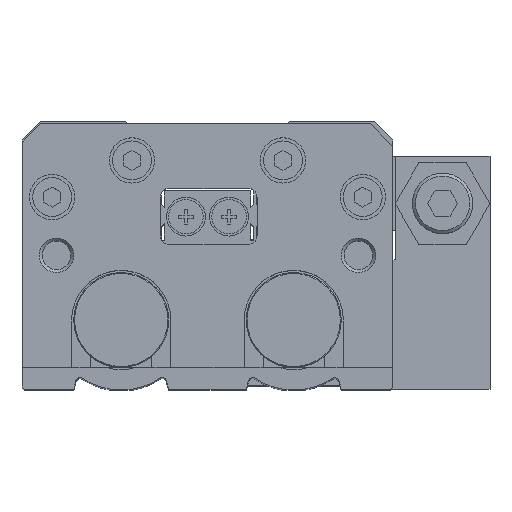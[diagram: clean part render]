
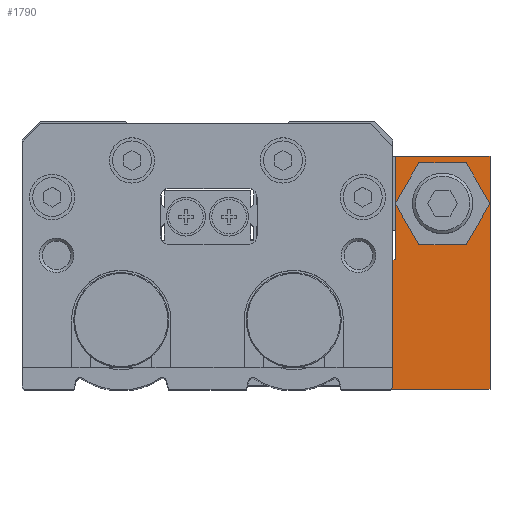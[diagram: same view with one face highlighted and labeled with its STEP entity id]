
A CAD part, top view. The second image highlights one B-rep face of the part: STEP entity #1790.
In plain terms, the highlighted planar face has unit normal (0, 0, 1) as drawn and (0, 0, -1) by its records, which use the part's own axes.
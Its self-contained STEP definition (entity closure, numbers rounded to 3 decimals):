
#1790 = ADVANCED_FACE( '', ( #3848, #3849 ), #3850, .F. );
#3848 = FACE_BOUND( '', #6049, .T. );
#3849 = FACE_OUTER_BOUND( '', #6050, .T. );
#3850 = PLANE( '', #6051 );
#6049 = EDGE_LOOP( '', ( #10764, #10765, #10766, #10767, #10768, #10769 ) );
#6050 = EDGE_LOOP( '', ( #10770, #10771, #10772, #10773, #10774, #10775 ) );
#6051 = AXIS2_PLACEMENT_3D( '', #10776, #10777, #10778 );
#10764 = ORIENTED_EDGE( '', *, *, #12379, .T. );
#10765 = ORIENTED_EDGE( '', *, *, #13208, .T. );
#10766 = ORIENTED_EDGE( '', *, *, #13246, .T. );
#10767 = ORIENTED_EDGE( '', *, *, #13527, .T. );
#10768 = ORIENTED_EDGE( '', *, *, #12333, .T. );
#10769 = ORIENTED_EDGE( '', *, *, #13174, .T. );
#10770 = ORIENTED_EDGE( '', *, *, #12586, .F. );
#10771 = ORIENTED_EDGE( '', *, *, #11812, .F. );
#10772 = ORIENTED_EDGE( '', *, *, #13233, .F. );
#10773 = ORIENTED_EDGE( '', *, *, #12953, .F. );
#10774 = ORIENTED_EDGE( '', *, *, #13394, .F. );
#10775 = ORIENTED_EDGE( '', *, *, #13273, .F. );
#10776 = CARTESIAN_POINT( '', ( 0., 0., -8. ) );
#10777 = DIRECTION( '', ( 0., 0., 1. ) );
#10778 = DIRECTION( '', ( 1., 0., 0. ) );
#11812 = EDGE_CURVE( '', #13851, #13852, #13853, .T. );
#12333 = EDGE_CURVE( '', #14751, #14752, #14753, .T. );
#12379 = EDGE_CURVE( '', #14823, #14824, #14825, .T. );
#12586 = EDGE_CURVE( '', #13852, #15160, #15161, .T. );
#12953 = EDGE_CURVE( '', #15745, #15746, #15747, .T. );
#13174 = EDGE_CURVE( '', #14752, #14823, #16067, .T. );
#13208 = EDGE_CURVE( '', #14824, #16110, #16111, .T. );
#13233 = EDGE_CURVE( '', #15746, #13851, #16146, .T. );
#13246 = EDGE_CURVE( '', #16110, #16163, #16164, .T. );
#13273 = EDGE_CURVE( '', #15160, #16199, #16200, .T. );
#13394 = EDGE_CURVE( '', #16199, #15745, #16354, .T. );
#13527 = EDGE_CURVE( '', #16163, #14751, #16518, .T. );
#13851 = VERTEX_POINT( '', #16882 );
#13852 = VERTEX_POINT( '', #16883 );
#13853 = LINE( '', #16884, #16885 );
#14751 = VERTEX_POINT( '', #18114 );
#14752 = VERTEX_POINT( '', #18115 );
#14753 = LINE( '', #18116, #18117 );
#14823 = VERTEX_POINT( '', #18208 );
#14824 = VERTEX_POINT( '', #18209 );
#14825 = LINE( '', #18210, #18211 );
#15160 = VERTEX_POINT( '', #18668 );
#15161 = LINE( '', #18669, #18670 );
#15745 = VERTEX_POINT( '', #19448 );
#15746 = VERTEX_POINT( '', #19449 );
#15747 = LINE( '', #19450, #19451 );
#16067 = LINE( '', #19898, #19899 );
#16110 = VERTEX_POINT( '', #19957 );
#16111 = LINE( '', #19958, #19959 );
#16146 = LINE( '', #20004, #20005 );
#16163 = VERTEX_POINT( '', #20028 );
#16164 = LINE( '', #20029, #20030 );
#16199 = VERTEX_POINT( '', #20083 );
#16200 = LINE( '', #20084, #20085 );
#16354 = LINE( '', #20298, #20299 );
#16518 = LINE( '', #20524, #20525 );
#16882 = CARTESIAN_POINT( '', ( 0., 54., -8. ) );
#16883 = CARTESIAN_POINT( '', ( -24., 54., -8. ) );
#16884 = CARTESIAN_POINT( '', ( 0., 54., -8. ) );
#16885 = VECTOR( '', #20922, 1000. );
#18114 = CARTESIAN_POINT( '', ( -5.515, 1.5, -8. ) );
#18115 = CARTESIAN_POINT( '', ( -0.03, 11., -8. ) );
#18116 = CARTESIAN_POINT( '', ( -5.515, 1.5, -8. ) );
#18117 = VECTOR( '', #21500, 1000. );
#18208 = CARTESIAN_POINT( '', ( -5.515, 20.5, -8. ) );
#18209 = CARTESIAN_POINT( '', ( -16.485, 20.5, -8. ) );
#18210 = CARTESIAN_POINT( '', ( -5.515, 20.5, -8. ) );
#18211 = VECTOR( '', #21555, 1000. );
#18668 = CARTESIAN_POINT( '', ( -24., 24., -8. ) );
#18669 = CARTESIAN_POINT( '', ( -24., 54., -8. ) );
#18670 = VECTOR( '', #21780, 1000. );
#19448 = CARTESIAN_POINT( '', ( -22., 0., -8. ) );
#19449 = CARTESIAN_POINT( '', ( 0., 0., -8. ) );
#19450 = CARTESIAN_POINT( '', ( -22., 0., -8. ) );
#19451 = VECTOR( '', #22245, 1000. );
#19898 = CARTESIAN_POINT( '', ( -0.03, 11., -8. ) );
#19899 = VECTOR( '', #22460, 1000. );
#19957 = CARTESIAN_POINT( '', ( -21.97, 11., -8. ) );
#19958 = CARTESIAN_POINT( '', ( -16.485, 20.5, -8. ) );
#19959 = VECTOR( '', #22494, 1000. );
#20004 = CARTESIAN_POINT( '', ( 0., 0., -8. ) );
#20005 = VECTOR( '', #22523, 1000. );
#20028 = CARTESIAN_POINT( '', ( -16.485, 1.5, -8. ) );
#20029 = CARTESIAN_POINT( '', ( -21.97, 11., -8. ) );
#20030 = VECTOR( '', #22536, 1000. );
#20083 = CARTESIAN_POINT( '', ( -22., 24., -8. ) );
#20084 = CARTESIAN_POINT( '', ( -24., 24., -8. ) );
#20085 = VECTOR( '', #22561, 1000. );
#20298 = CARTESIAN_POINT( '', ( -22., 24., -8. ) );
#20299 = VECTOR( '', #22663, 1000. );
#20524 = CARTESIAN_POINT( '', ( -16.485, 1.5, -8. ) );
#20525 = VECTOR( '', #22761, 1000. );
#20922 = DIRECTION( '', ( -1., 0., 0. ) );
#21500 = DIRECTION( '', ( 0.5, 0.866, 0. ) );
#21555 = DIRECTION( '', ( -1., 0., 0. ) );
#21780 = DIRECTION( '', ( 0., -1., 0. ) );
#22245 = DIRECTION( '', ( 1., 0., 0. ) );
#22460 = DIRECTION( '', ( -0.5, 0.866, 0. ) );
#22494 = DIRECTION( '', ( -0.5, -0.866, 0. ) );
#22523 = DIRECTION( '', ( 0., 1., 0. ) );
#22536 = DIRECTION( '', ( 0.5, -0.866, 0. ) );
#22561 = DIRECTION( '', ( 1., 0., 0. ) );
#22663 = DIRECTION( '', ( 0., -1., 0. ) );
#22761 = DIRECTION( '', ( 1., 0., 0. ) );
